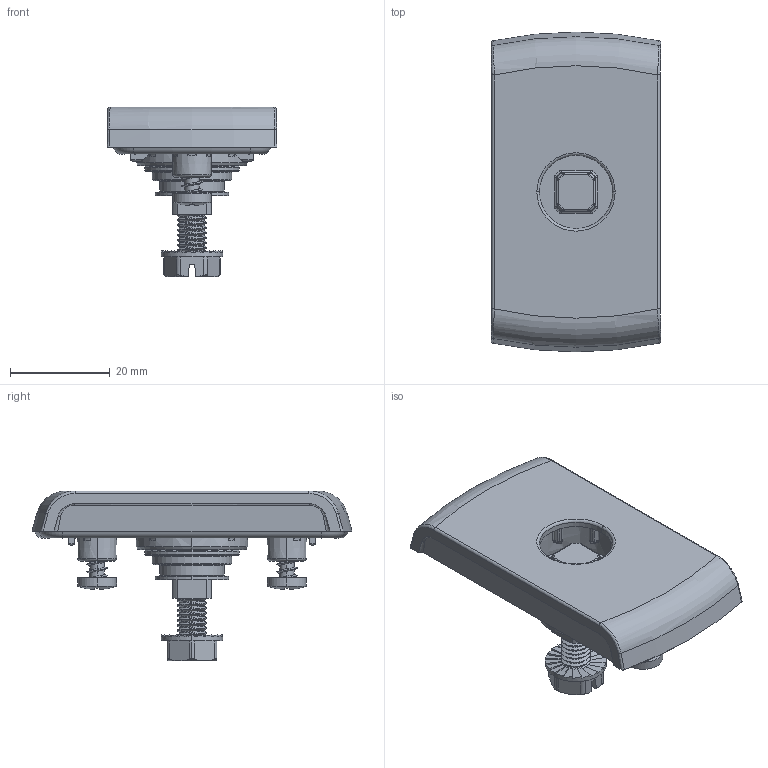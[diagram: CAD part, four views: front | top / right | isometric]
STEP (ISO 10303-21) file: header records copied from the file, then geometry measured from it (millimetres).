
FILE_DESCRIPTION (( 'STEP AP214' ), '1' );
FILE_NAME ('1B.RW120.N.STEP', '2022-02-04T07:26:40', ( '' ), ( '' ), 'SwSTEP 2.0', 'SolidWorks 2021', '' );
FILE_SCHEMA (( 'AUTOMOTIVE_DESIGN' ));
Length unit declared in the file: millimetre
Products named in the file (7): P.014991_01-01; S6PZ_M6x12 S6Pz; 1B.RW120.N; 2.PT.001_A; P.014951_01-00; DIN 3771_16x2; DIN 7981_F.4.1x12
Assembly tree (7 placements, depth 2):
  1B.RW120.N
    P.014991_01-01
    2.PT.001_A
    DIN 3771_16x2
    DIN 7981_F.4.1x12  x2
    P.014951_01-00
    S6PZ_M6x12 S6Pz
Bounding box: 34 x 64 x 34 mm (x, y, z)
Volume: 14928 mm3; surface area: 15036.7 mm2
Topology: 8 solids, 8 shells, 1152 faces, 2743 edges, 1630 vertices
Faces by surface type: plane 340, cylinder 236, bspline 206, torus 137, sphere 129, cone 104
Entity records: 45326 total; most frequent: CARTESIAN_POINT 21223, ORIENTED_EDGE 5198, DIRECTION 4660, EDGE_CURVE 2599, AXIS2_PLACEMENT_3D 1867, VERTEX_POINT 1534, EDGE_LOOP 1131, FACE_OUTER_BOUND 1101
